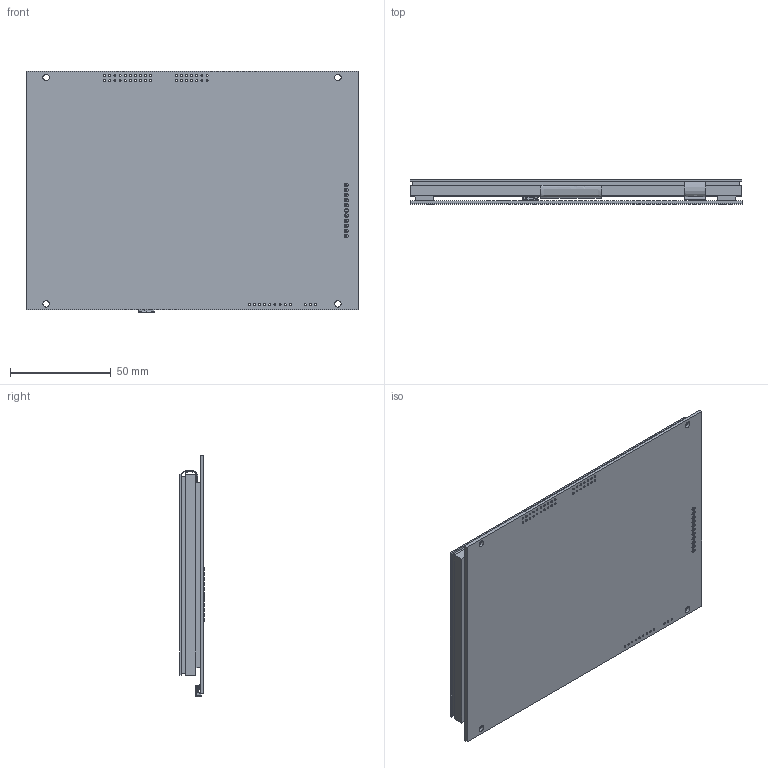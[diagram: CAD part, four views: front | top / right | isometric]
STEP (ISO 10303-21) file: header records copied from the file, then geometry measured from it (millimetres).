
FILE_DESCRIPTION((''),'2;1');
FILE_NAME('GT800X480A-C903PA_ASM','2017-11-29T',('samx'),(''),'PRO/ENGINEER BY PARAMETRIC TECHNOLOGY CORPORATION, 2010280','PRO/ENGINEER BY PARAMETRIC TECHNOLOGY CORPORATION, 2010280','');
FILE_SCHEMA(('CONFIG_CONTROL_DESIGN'));
Length unit declared in the file: millimetre
Products named in the file (3): GT800X480A-C903PA; USB_MICRO_MOLEX; GT800X480A-C903PA_ASM
Assembly tree (2 placements, depth 2):
  GT800X480A-C903PA_ASM
    GT800X480A-C903PA
    USB_MICRO_MOLEX
Bounding box: 165 x 12.1 x 119.8 mm (x, y, z)
Volume: 128881.4 mm3; surface area: 109211.4 mm2
Topology: 2 solids, 4 shells, 685 faces, 2006 edges, 1407 vertices
Faces by surface type: plane 442, cylinder 229, cone 6, extrusion 4, sphere 4
Entity records: 22878 total; most frequent: CARTESIAN_POINT 4135, DIRECTION 3881, ORIENTED_EDGE 3726, EDGE_CURVE 1863, VECTOR 1491, LINE 1487, VERTEX_POINT 1217, AXIS2_PLACEMENT_3D 1195
